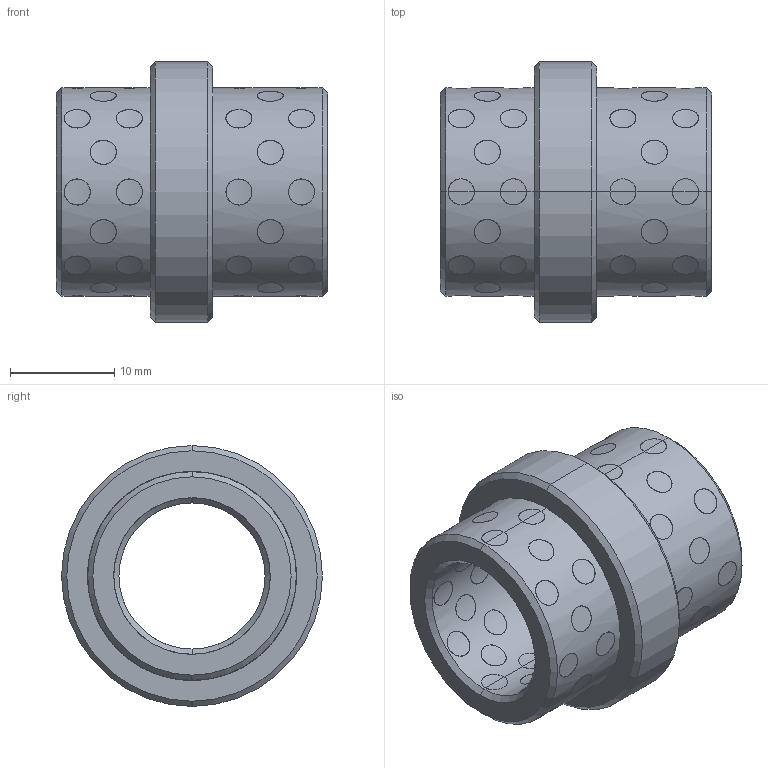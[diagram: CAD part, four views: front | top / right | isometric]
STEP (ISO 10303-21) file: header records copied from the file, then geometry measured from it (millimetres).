
FILE_DESCRIPTION(('CATIA V5 STEP Exchange'),'2;1');
FILE_NAME('C:\Users\Utente\Desktop\3D files G313\G3131417.stp','2020-04-22T07:36:43+00:00',('none'),('none'),'CATIA Version 5 Release 20 GA (IN-10)','CATIA V5 STEP AP203','none');
FILE_SCHEMA(('CONFIG_CONTROL_DESIGN'));
Length unit declared in the file: millimetre
Products named in the file (1): G3131417
Bounding box: 26 x 25 x 25 mm (x, y, z)
Surface area: 5698.2 mm2 (no closed solid volume)
Topology: 0 solids, 328 shells, 328 faces, 1440 edges, 1440 vertices
Faces by surface type: cylinder 312, revolution 12, plane 4
Entity records: 24763 total; most frequent: CARTESIAN_POINT 14766, ORIENTED_EDGE 1440, EDGE_CURVE 1440, VERTEX_POINT 1440, DIRECTION 1179, B_SPLINE_CURVE_WITH_KNOTS 917, VECTOR 488, LINE 488
